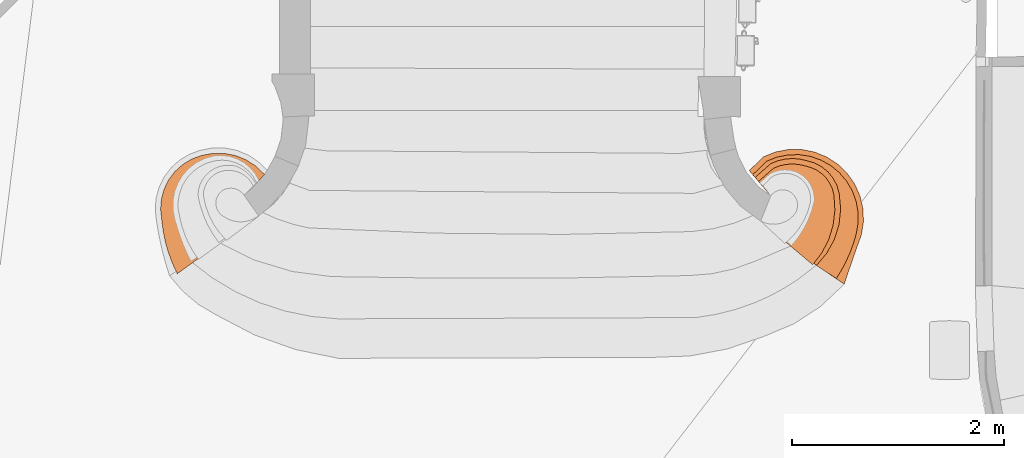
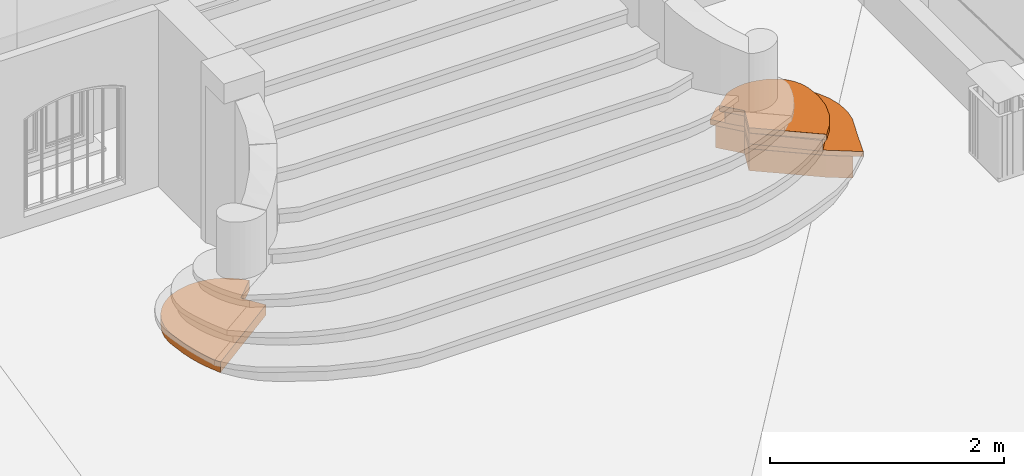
# One storey, part 125 of 133: 5 proxies.
"""IFC2X3 building model written with IfcOpenShell, lengths in centimetres."""

from ifc_helpers import new_model, entity, si_unit, converted_unit, direction, frame, origin, origin_with_axes, place, context, subcontext, project, spatial, faceted_brep, material, element, save


model = new_model("IFC2X3")

# Units and contexts
model_context = context("Model", 3, precision=0.0001, world=origin(), true_north=direction((0.225632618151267, 0.974212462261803, 0.0)))
body_context = subcontext(model_context, "Body", "Model", "MODEL_VIEW")
ifc_project = project(units=[si_unit("LENGTHUNIT", "METRE", prefix="CENTI"), si_unit("AREAUNIT", "SQUARE_METRE", prefix="CENTI"), si_unit("VOLUMEUNIT", "CUBIC_METRE", prefix="CENTI"), converted_unit("PLANEANGLEUNIT", "DEGREE", entity("IfcRatioMeasure", 0.0174532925), si_unit("PLANEANGLEUNIT", "RADIAN"), dimensions=[0, 0, 0, 0, 0, 0, 0])], contexts=[model_context])

# Site, building, storey
site_placement = place(None, origin_with_axes())
site = spatial("IfcSite", under=ifc_project, at=site_placement, Name="Default Site", CompositionType="ELEMENT")
building_placement = place(site_placement, origin_with_axes())
building = spatial("IfcBuilding", under=site, at=building_placement, Name="Default Building", CompositionType="ELEMENT")
storey_placement = place(building_placement, frame((0.0, 0.0, -291.400371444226), z_axis=(0.0, 0.0, 1.0), x_axis=(1.0, 0.0, 0.0)))
storey = spatial("IfcBuildingStorey", under=building, at=storey_placement, Name="Rez-de-Jardin", CompositionType="ELEMENT", Elevation=-291.400371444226)

# Proxies
ifc_material = material(Name="Béton (01)")
proxy_1_placement = place(storey_placement, frame((27.3559945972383, -1202.28852461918, 128.0), z_axis=(0.0, 0.0, 1.0), x_axis=(1.0, 0.0, 0.0)))
element("IfcBuildingElementProxy", 1, at=proxy_1_placement, inside=storey, material=ifc_material, Name="Encombrement 348051", context=body_context, shape_type="Brep", body=[
    faceted_brep([(1.17703078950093e-06, -7.63789582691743e-06, 11.227674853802), (49.1338115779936, -41.2495689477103, 11.227674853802), (57.7709299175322, -29.9996452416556, 11.227674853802), (64.2625909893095, -17.389400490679, 11.227674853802), (68.400530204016, -3.82338333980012, 11.227674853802), (70.0519960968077, 10.263244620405, 11.227674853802), (69.1640060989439, 24.4185371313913, 11.227674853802), (67.7305024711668, 30.0906104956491, 11.227674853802), (65.3294783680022, 35.4256553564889, 11.227674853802), (62.0345574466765, 40.2601165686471, 11.227674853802), (57.9467993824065, 44.4455070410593, 11.227674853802), (53.1915646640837, 47.8536529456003, 11.227674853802), (47.9146939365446, 50.3800315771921, 11.227674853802), (42.2780138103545, 51.9470138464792, 11.227674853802), (36.2530690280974, 53.3565444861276, 11.227674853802), (30.0848287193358, 53.8460655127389, 11.227674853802), (23.9129763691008, 53.4044189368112, 11.227674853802), (17.8772789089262, 52.0417137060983, 11.227674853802), (12.1144038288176, 49.7886581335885, 11.227674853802), (-2.08130957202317, 37.2734947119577, 11.227674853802), (9.55675064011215, 23.7449569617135, 11.227674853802), (1.17703078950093e-06, -7.63789582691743e-06, -4.39882250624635e-06), (49.1338134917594, -41.249566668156, -4.39882250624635e-06), (49.1338134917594, -41.249566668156, 11.227674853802), (49.1338115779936, -41.2495689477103, -4.39882250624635e-06), (57.7709401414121, -29.9996530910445, -4.39882250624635e-06), (57.7709401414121, -29.9996530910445, 11.227674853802), (57.7709299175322, -29.9996452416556, -4.39882250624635e-06), (64.262587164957, -17.389398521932, -4.39882250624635e-06), (64.262587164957, -17.389398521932, 11.227674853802), (64.2625909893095, -17.389400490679, -4.39882250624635e-06), (68.400521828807, -3.82338078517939, -4.39882250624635e-06), (68.400521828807, -3.82338078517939, 11.227674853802), (68.400530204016, -3.82338333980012, -4.39882250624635e-06), (70.0519966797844, 10.2632445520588, -4.39882250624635e-06), (70.0519966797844, 10.2632445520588, 11.227674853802), (70.0519960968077, 10.263244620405, -4.39882250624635e-06), (69.1640048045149, 24.418537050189, -4.39882250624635e-06), (69.1640048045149, 24.418537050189, 11.227674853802), (69.1640060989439, 24.4185371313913, -4.39882250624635e-06), (67.7305125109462, 30.0906130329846, -4.39882250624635e-06), (67.7305125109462, 30.0906130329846, 11.227674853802), (67.7305024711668, 30.0906104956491, -4.39882250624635e-06), (65.3294788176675, 35.4256555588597, -4.39882250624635e-06), (65.3294788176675, 35.4256555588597, 11.227674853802), (65.3294783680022, 35.4256553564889, -4.39882250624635e-06), (62.0345229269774, 40.260093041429, -4.39882250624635e-06), (62.0345229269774, 40.260093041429, 11.227674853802), (62.0345574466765, 40.2601165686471, -4.39882250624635e-06), (57.9468280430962, 44.4455350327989, -4.39882250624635e-06), (57.9468280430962, 44.4455350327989, 11.227674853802), (57.9467993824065, 44.4455070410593, -4.39882250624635e-06), (53.1915680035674, 47.8536576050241, -4.39882250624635e-06), (53.1915680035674, 47.8536576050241, 11.227674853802), (53.1915646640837, 47.8536529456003, -4.39882250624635e-06), (47.9146758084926, 50.3799937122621, -4.39882250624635e-06), (47.9146758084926, 50.3799937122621, 11.227674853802), (47.9146939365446, 50.3800315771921, -4.39882250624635e-06), (42.2780276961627, 51.9470637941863, -4.39882250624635e-06), (42.2780276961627, 51.9470637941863, 11.227674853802), (42.2780138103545, 51.9470138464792, -4.39882250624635e-06), (36.2530695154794, 53.3565465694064, -4.39882250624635e-06), (36.2530695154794, 53.3565465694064, 11.227674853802), (36.2530690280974, 53.3565444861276, -4.39882250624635e-06), (30.0848267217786, 53.8460403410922, -4.39882250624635e-06), (30.0848267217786, 53.8460403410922, 11.227674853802), (30.0848287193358, 53.8460655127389, -4.39882250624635e-06), (23.9129749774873, 53.4044383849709, -4.39882250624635e-06), (23.9129749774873, 53.4044383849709, 11.227674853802), (23.9129763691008, 53.4044189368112, -4.39882250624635e-06), (17.8772880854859, 52.0416730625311, -4.39882250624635e-06), (17.8772880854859, 52.0416730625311, 11.227674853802), (17.8772789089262, 52.0417137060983, -4.39882250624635e-06), (12.1143889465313, 49.788696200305, -4.39882250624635e-06), (12.1143889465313, 49.788696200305, 11.227674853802), (12.1144038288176, 49.7886581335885, -4.39882250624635e-06), (-2.08128087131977, 37.2734621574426, -4.39882250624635e-06), (-2.08128087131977, 37.2734621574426, 11.227674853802), (-2.08130957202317, 37.2734947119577, -4.39882250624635e-06), (9.55678500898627, 23.744986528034, -4.39882250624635e-06), (9.55678500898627, 23.744986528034, 11.227674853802), (9.55675064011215, 23.7449569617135, -4.39882250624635e-06), (1.41314684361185e-05, -1.28517220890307e-05, -4.39882250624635e-06), (1.41314684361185e-05, -1.28517220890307e-05, 11.227674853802)], [[[0, 1, 2, 3, 4, 5, 6, 7, 8, 9, 10, 11, 12, 13, 14, 15, 16, 17, 18, 19, 20]], [[21, 22, 23, 0]], [[24, 25, 26, 1]], [[27, 28, 29, 2]], [[30, 31, 32, 3]], [[33, 34, 35, 4]], [[36, 37, 38, 5]], [[39, 40, 41, 6]], [[42, 43, 44, 7]], [[45, 46, 47, 8]], [[48, 49, 50, 9]], [[51, 52, 53, 10]], [[54, 55, 56, 11]], [[57, 58, 59, 12]], [[60, 61, 62, 13]], [[63, 64, 65, 14]], [[66, 67, 68, 15]], [[69, 70, 71, 16]], [[72, 73, 74, 17]], [[75, 76, 77, 18]], [[78, 79, 80, 19]], [[81, 82, 83, 20]], [[81, 78, 75, 72, 69, 66, 63, 60, 57, 54, 51, 48, 45, 42, 39, 36, 33, 30, 27, 24, 21]]]),
])
proxy_2_placement = place(storey_placement, frame((27.35599459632, -1202.28852462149, 123.0), z_axis=(0.0, 0.0, 1.0), x_axis=(1.0, 0.0, 0.0)))
element("IfcBuildingElementProxy", 2, at=proxy_2_placement, inside=storey, material=ifc_material, Name="Encombrement 348050", context=body_context, shape_type="Brep", body=[
    faceted_brep([(1.17794908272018e-06, -7.63559455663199e-06, 5.29999769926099), (52.4183553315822, -41.7912559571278, 5.29999769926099), (78.872500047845, -59.4954567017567, 5.29999769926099), (81.9988709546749, -50.1147346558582, 5.29999769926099), (85.1847749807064, -40.7539444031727, 5.29999769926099), (88.430080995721, -31.4136581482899, 5.29999769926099), (91.7346459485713, -22.0942573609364, 5.29999769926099), (95.0983625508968, -12.7959327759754, 5.29999769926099), (96.9736319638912, -0.587566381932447, 5.29999769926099), (96.4947324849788, 11.754695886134, 5.29999769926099), (93.6791521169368, 23.781005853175, 5.29999769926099), (88.6294704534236, 35.0531501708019, 5.29999769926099), (81.5297347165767, 45.160285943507, 5.29999769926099), (72.6386827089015, 53.7341041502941, 5.29999769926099), (62.2803550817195, 60.4620857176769, 5.29999769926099), (50.8322459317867, 65.0990409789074, 5.29999769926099), (38.7115698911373, 67.4759788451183, 5.29999769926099), (26.3600689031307, 67.5063056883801, 5.29999769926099), (14.2278712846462, 65.1888770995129, 5.29999769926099), (2.75713323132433, 60.6081886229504, 5.29999769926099), (-10.7204544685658, 47.6282997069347, 5.29999769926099), (9.48454557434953, 23.7668914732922, 5.29999769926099), (1.17794908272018e-06, -7.63559455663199e-06, 3.69549080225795e-07), (52.4183649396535, -41.7912439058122, 3.69549080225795e-07), (52.4183649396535, -41.7912439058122, 5.29999769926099), (52.4183553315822, -41.7912559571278, 3.69549080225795e-07), (78.8724865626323, -59.4954768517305, 3.69549080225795e-07), (78.8724865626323, -59.4954768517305, 5.29999769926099), (78.872500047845, -59.4954567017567, 3.69549080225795e-07), (81.9988580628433, -50.114730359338, 3.69549080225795e-07), (81.9988580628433, -50.114730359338, 5.29999769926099), (81.9988709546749, -50.1147346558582, 3.69549080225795e-07), (85.1847964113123, -40.7539516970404, 3.69549080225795e-07), (85.1847964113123, -40.7539516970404, 5.29999769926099), (85.1847749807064, -40.7539444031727, 3.69549080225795e-07), (88.430080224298, -31.4136578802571, 3.69549080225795e-07), (88.430080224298, -31.4136578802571, 5.29999769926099), (88.430080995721, -31.4136581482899, 3.69549080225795e-07), (91.7346315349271, -22.0942522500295, 3.69549080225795e-07), (91.7346315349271, -22.0942522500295, 5.29999769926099), (91.7346459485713, -22.0942573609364, 3.69549080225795e-07), (95.0983694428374, -12.795935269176, 3.69549080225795e-07), (95.0983694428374, -12.795935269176, 5.29999769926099), (95.0983625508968, -12.7959327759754, 3.69549080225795e-07), (96.9736268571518, -0.587565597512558, 3.69549080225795e-07), (96.9736268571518, -0.587565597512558, 5.29999769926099), (96.9736319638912, -0.587566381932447, 3.69549080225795e-07), (96.4947410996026, 11.7546962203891, 3.69549080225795e-07), (96.4947410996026, 11.7546962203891, 5.29999769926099), (96.4947324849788, 11.754695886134, 3.69549080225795e-07), (93.6791503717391, 23.7810054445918, 3.69549080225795e-07), (93.6791503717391, 23.7810054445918, 5.29999769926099), (93.6791521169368, 23.781005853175, 3.69549080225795e-07), (88.6294744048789, 35.0531519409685, 3.69549080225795e-07), (88.6294744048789, 35.0531519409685, 5.29999769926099), (88.6294704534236, 35.0531501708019, 3.69549080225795e-07), (81.5297390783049, 45.1602890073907, 3.69549080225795e-07), (81.5297390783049, 45.1602890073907, 5.29999769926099), (81.5297347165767, 45.160285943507, 3.69549080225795e-07), (72.6386718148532, 53.7340928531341, 3.69549080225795e-07), (72.6386718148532, 53.7340928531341, 5.29999769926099), (72.6386827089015, 53.7341041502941, 3.69549080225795e-07), (62.2803503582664, 60.4620784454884, 3.69549080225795e-07), (62.2803503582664, 60.4620784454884, 5.29999769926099), (62.2803550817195, 60.4620857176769, 3.69549080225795e-07), (50.8322466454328, 65.0990427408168, 3.69549080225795e-07), (50.8322466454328, 65.0990427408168, 5.29999769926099), (50.8322459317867, 65.0990409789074, 3.69549080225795e-07), (38.711572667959, 67.4759930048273, 3.69549080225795e-07), (38.711572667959, 67.4759930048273, 5.29999769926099), (38.7115698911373, 67.4759788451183, 3.69549080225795e-07), (26.3600688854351, 67.5062984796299, 3.69549080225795e-07), (26.3600688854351, 67.5062984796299, 5.29999769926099), (26.3600689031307, 67.5063056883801, 3.69549080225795e-07), (14.2278692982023, 65.1888874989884, 3.69549080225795e-07), (14.2278692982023, 65.1888874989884, 5.29999769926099), (14.2278712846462, 65.1888770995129, 3.69549080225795e-07), (2.75713660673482, 60.6081801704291, 3.69549080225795e-07), (2.75713660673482, 60.6081801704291, 5.29999769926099), (2.75713323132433, 60.6081886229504, 3.69549080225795e-07), (-10.7204577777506, 47.6283031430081, 3.69549080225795e-07), (-10.7204577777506, 47.6283031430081, 5.29999769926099), (-10.7204544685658, 47.6282997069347, 3.69549080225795e-07), (9.48455409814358, 23.766898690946, 3.69549080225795e-07), (9.48455409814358, 23.766898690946, 5.29999769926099), (9.48454557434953, 23.7668914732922, 3.69549080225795e-07), (1.18805334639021e-05, -1.19066188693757e-05, 3.69549080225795e-07), (1.18805334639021e-05, -1.19066188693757e-05, 5.29999769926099)], [[[0, 1, 2, 3, 4, 5, 6, 7, 8, 9, 10, 11, 12, 13, 14, 15, 16, 17, 18, 19, 20, 21]], [[22, 23, 24, 0]], [[25, 26, 27, 1]], [[28, 29, 30, 2]], [[31, 32, 33, 3]], [[34, 35, 36, 4]], [[37, 38, 39, 5]], [[40, 41, 42, 6]], [[43, 44, 45, 7]], [[46, 47, 48, 8]], [[49, 50, 51, 9]], [[52, 53, 54, 10]], [[55, 56, 57, 11]], [[58, 59, 60, 12]], [[61, 62, 63, 13]], [[64, 65, 66, 14]], [[67, 68, 69, 15]], [[70, 71, 72, 16]], [[73, 74, 75, 17]], [[76, 77, 78, 18]], [[79, 80, 81, 19]], [[82, 83, 84, 20]], [[85, 86, 87, 21]], [[85, 82, 79, 76, 73, 70, 67, 64, 61, 58, 55, 52, 49, 46, 43, 40, 37, 34, 31, 28, 25, 22]]]),
])
proxy_3_placement = place(storey_placement, frame((27.355994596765, -1202.28852462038, 100.0), z_axis=(0.0, 0.0, 1.0), x_axis=(1.0, 0.0, 0.0)))
element("IfcBuildingElementProxy", 3, at=proxy_3_placement, inside=storey, material=ifc_material, Name="Encombrement 345566", context=body_context, shape_type="Brep", body=[
    faceted_brep([(1.17750407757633e-06, -7.63669874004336e-06, 22.8638395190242), (52.4183553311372, -41.7912559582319, 22.8638395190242), (71.3794571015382, -54.2307930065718, 22.8638395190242), (76.2051564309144, -46.4475708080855, 22.8638395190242), (80.5030923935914, -38.3608894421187, 22.8638395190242), (84.2542749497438, -30.0065116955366, 22.8638395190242), (87.4421340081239, -21.4214401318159, 22.8638395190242), (90.0525671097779, -12.6435356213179, 22.8638395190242), (91.9171792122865, -2.25840378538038, 22.8638395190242), (91.9245940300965, 8.29276274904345, 22.8638395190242), (90.0745612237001, 18.6804695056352, 22.8638395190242), (86.4248734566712, 28.5802764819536, 22.8638395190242), (81.0895067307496, 37.6830978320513, 22.8638395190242), (74.2350917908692, 45.7045478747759, 22.8638395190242), (66.075686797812, 52.3941917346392, 22.8638395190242), (56.8661194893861, 57.5430793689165, 22.8638395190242), (46.8940061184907, 60.9903259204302, 22.8638395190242), (36.4707809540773, 62.6284522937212, 22.8638395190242), (25.9219628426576, 62.4061508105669, 22.8638395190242), (15.5770015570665, 60.330383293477, 22.8638395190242), (5.75897215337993, 56.4659995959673, 22.8638395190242), (-7.41057129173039, 43.7827987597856, 22.8638395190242), (9.55675064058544, 23.7449569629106, 22.8638395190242), (1.17750407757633e-06, -7.63669874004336e-06, -1.53779955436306e-06), (52.4183649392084, -41.7912439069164, -1.53779955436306e-06), (52.4183649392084, -41.7912439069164, 22.8638395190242), (52.4183553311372, -41.7912559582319, -1.53779955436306e-06), (71.3794423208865, -54.230815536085, -1.53779955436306e-06), (71.3794423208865, -54.230815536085, 22.8638395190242), (71.3794571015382, -54.2307930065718, -1.53779955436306e-06), (76.2051401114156, -46.4475606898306, -1.53779955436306e-06), (76.2051401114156, -46.4475606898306, 22.8638395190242), (76.2051564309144, -46.4475708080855, -1.53779955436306e-06), (80.5030985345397, -38.360892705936, -1.53779955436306e-06), (80.5030985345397, -38.360892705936, 22.8638395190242), (80.5030923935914, -38.3608894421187, -1.53779955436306e-06), (84.2542876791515, -30.006517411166, -1.53779955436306e-06), (84.2542876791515, -30.006517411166, 22.8638395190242), (84.2542749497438, -30.0065116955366, -1.53779955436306e-06), (87.442118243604, -21.421434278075, -1.53779955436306e-06), (87.442118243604, -21.421434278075, 22.8638395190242), (87.4421340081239, -21.4214401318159, -1.53779955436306e-06), (90.0525643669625, -12.6435348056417, -1.53779955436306e-06), (90.0525643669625, -12.6435348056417, 22.8638395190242), (90.0525671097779, -12.6435356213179, -1.53779955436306e-06), (91.9171863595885, -2.25840506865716, -1.53779955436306e-06), (91.9171863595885, -2.25840506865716, 22.8638395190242), (91.9171792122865, -2.25840378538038, -1.53779955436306e-06), (91.9245867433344, 8.29276275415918, -1.53779955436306e-06), (91.9245867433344, 8.29276275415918, 22.8638395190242), (91.9245940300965, 8.29276274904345, -1.53779955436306e-06), (90.0745640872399, 18.680470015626, -1.53779955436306e-06), (90.0745640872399, 18.680470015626, 22.8638395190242), (90.0745612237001, 18.6804695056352, -1.53779955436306e-06), (86.424882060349, 28.5802796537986, -1.53779955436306e-06), (86.424882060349, 28.5802796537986, 22.8638395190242), (86.4248734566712, 28.5802764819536, -1.53779955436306e-06), (81.089494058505, 37.6830904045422, -1.53779955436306e-06), (81.089494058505, 37.6830904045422, 22.8638395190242), (81.0895067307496, 37.6830978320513, -1.53779955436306e-06), (74.2350969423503, 45.7045522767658, -1.53779955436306e-06), (74.2350969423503, 45.7045522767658, 22.8638395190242), (74.2350917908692, 45.7045478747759, -1.53779955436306e-06), (66.0756771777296, 52.3941800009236, -1.53779955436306e-06), (66.0756771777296, 52.3941800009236, 22.8638395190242), (66.075686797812, 52.3941917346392, -1.53779955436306e-06), (56.8661087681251, 57.5430601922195, -1.53779955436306e-06), (56.8661087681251, 57.5430601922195, 22.8638395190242), (56.8661194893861, 57.5430793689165, -1.53779955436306e-06), (46.8940230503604, 60.9903748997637, -1.53779955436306e-06), (46.8940230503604, 60.9903748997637, 22.8638395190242), (46.8940061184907, 60.9903259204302, -1.53779955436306e-06), (36.470773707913, 62.628406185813, -1.53779955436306e-06), (36.470773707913, 62.628406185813, 22.8638395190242), (36.4707809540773, 62.6284522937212, -1.53779955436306e-06), (25.9219628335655, 62.4061512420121, -1.53779955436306e-06), (25.9219628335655, 62.4061512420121, 22.8638395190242), (25.9219628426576, 62.4061508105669, -1.53779955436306e-06), (15.5769959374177, 60.3304113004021, -1.53779955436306e-06), (15.5769959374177, 60.3304113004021, 22.8638395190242), (15.5770015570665, 60.330383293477, -1.53779955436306e-06), (5.75896050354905, 56.4660291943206, -1.53779955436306e-06), (5.75896050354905, 56.4660291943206, 22.8638395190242), (5.75897215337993, 56.4659995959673, -1.53779955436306e-06), (-7.41056490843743, 43.7827921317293, -1.53779955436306e-06), (-7.41056490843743, 43.7827921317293, 22.8638395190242), (-7.41057129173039, 43.7827987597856, -1.53779955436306e-06), (9.55676753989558, 23.7449712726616, -1.53779955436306e-06), (9.55676753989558, 23.7449712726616, 22.8638395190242), (9.55675064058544, 23.7449569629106, -1.53779955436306e-06), (1.41319417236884e-05, -1.28505250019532e-05, -1.53779955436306e-06), (1.41319417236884e-05, -1.28505250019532e-05, 22.8638395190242)], [[[0, 1, 2, 3, 4, 5, 6, 7, 8, 9, 10, 11, 12, 13, 14, 15, 16, 17, 18, 19, 20, 21, 22]], [[23, 24, 25, 0]], [[26, 27, 28, 1]], [[29, 30, 31, 2]], [[32, 33, 34, 3]], [[35, 36, 37, 4]], [[38, 39, 40, 5]], [[41, 42, 43, 6]], [[44, 45, 46, 7]], [[47, 48, 49, 8]], [[50, 51, 52, 9]], [[53, 54, 55, 10]], [[56, 57, 58, 11]], [[59, 60, 61, 12]], [[62, 63, 64, 13]], [[65, 66, 67, 14]], [[68, 69, 70, 15]], [[71, 72, 73, 16]], [[74, 75, 76, 17]], [[77, 78, 79, 18]], [[80, 81, 82, 19]], [[83, 84, 85, 20]], [[86, 87, 88, 21]], [[89, 90, 91, 22]], [[89, 86, 83, 80, 77, 74, 71, 68, 65, 62, 59, 56, 53, 50, 47, 44, 41, 38, 35, 32, 29, 26, 23]]]),
])
proxy_4_placement = place(storey_placement, frame((27.503640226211, -1202.16115975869, 139.0), z_axis=(0.0, 0.0, 1.0), x_axis=(1.0, 0.0, 0.0)))
element("IfcBuildingElementProxy", 4, at=proxy_4_placement, inside=storey, material=ifc_material, Name="Encombrement 348052", context=body_context, shape_type="Brep", body=[
    faceted_brep([(-7.66601060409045e-07, 3.83902834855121e-05, 5.72766960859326), (52.5550417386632, -41.900214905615, 5.72766960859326), (62.1734849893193, -30.5799100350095, 5.72766960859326), (69.3512968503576, -17.5743672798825, 5.72766960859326), (73.8023333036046, -3.40209936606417, 5.72766960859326), (75.3491692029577, 11.3718416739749, 5.72766960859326), (73.930137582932, 26.1587526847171, 5.72766960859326), (71.7906467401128, 33.4861185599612, 5.72766960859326), (68.2437531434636, 40.2453806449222, 5.72766960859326), (63.4296826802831, 46.1693193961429, 5.72766960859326), (57.5387470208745, 51.0236170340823, 5.72766960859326), (50.8038393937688, 54.6165850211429, 5.72766960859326), (43.4912137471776, 56.8060305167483, 5.72766960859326), (36.6427533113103, 58.3545115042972, 5.72766960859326), (29.6385936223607, 58.8454630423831, 5.72766960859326), (22.6410798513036, 58.2674410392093, 5.72766960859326), (15.8124081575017, 56.633892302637, 5.72766960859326), (9.31084973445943, 53.9826777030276, 5.72766960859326), (-5.34232782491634, 41.0642054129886, 5.72766960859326), (9.55674571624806, 23.7450029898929, 5.72766960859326), (-7.66601060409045e-07, 3.83902834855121e-05, -2.96831104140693e-06), (52.5550651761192, -41.9001855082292, -2.96831104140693e-06), (52.5550651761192, -41.9001855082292, 5.72766960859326), (52.5550417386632, -41.900214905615, -2.96831104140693e-06), (62.1734758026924, -30.5799022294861, -2.96831104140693e-06), (62.1734758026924, -30.5799022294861, 5.72766960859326), (62.1734849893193, -30.5799100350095, -2.96831104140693e-06), (69.3513100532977, -17.5743745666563, -2.96831104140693e-06), (69.3513100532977, -17.5743745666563, 5.72766960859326), (69.3512968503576, -17.5743672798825, -2.96831104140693e-06), (73.8023448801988, -3.4021030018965, -2.96831104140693e-06), (73.8023448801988, -3.4021030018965, 5.72766960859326), (73.8023333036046, -3.40209936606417, -2.96831104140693e-06), (75.349161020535, 11.3718425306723, -2.96831104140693e-06), (75.349161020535, 11.3718425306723, 5.72766960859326), (75.3491692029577, 11.3718416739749, -2.96831104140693e-06), (73.9301293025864, 26.1587518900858, -2.96831104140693e-06), (73.9301293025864, 26.1587518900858, 5.72766960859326), (73.930137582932, 26.1587526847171, -2.96831104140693e-06), (71.7906541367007, 33.4861207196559, -2.96831104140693e-06), (71.7906541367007, 33.4861207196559, 5.72766960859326), (71.7906467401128, 33.4861185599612, -2.96831104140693e-06), (68.2437544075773, 40.24538130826, -2.96831104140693e-06), (68.2437544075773, 40.24538130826, 5.72766960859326), (68.2437531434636, 40.2453806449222, -2.96831104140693e-06), (63.4296702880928, 46.1693093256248, -2.96831104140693e-06), (63.4296702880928, 46.1693093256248, 5.72766960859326), (63.4296826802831, 46.1693193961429, -2.96831104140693e-06), (57.5387853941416, 51.0236636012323, -2.96831104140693e-06), (57.5387853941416, 51.0236636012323, 5.72766960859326), (57.5387470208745, 51.0236170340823, -2.96831104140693e-06), (50.8038209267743, 54.6165504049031, -2.96831104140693e-06), (50.8038209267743, 54.6165504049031, 5.72766960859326), (50.8038393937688, 54.6165850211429, -2.96831104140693e-06), (43.4912095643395, 56.8060165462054, -2.96831104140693e-06), (43.4912095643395, 56.8060165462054, 5.72766960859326), (43.4912137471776, 56.8060305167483, -2.96831104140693e-06), (36.6427609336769, 58.3545452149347, -2.96831104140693e-06), (36.6427609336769, 58.3545452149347, 5.72766960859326), (36.6427533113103, 58.3545115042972, -2.96831104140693e-06), (29.6385934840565, 58.8454610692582, -2.96831104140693e-06), (29.6385934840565, 58.8454610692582, 5.72766960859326), (29.6385936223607, 58.8454630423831, -2.96831104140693e-06), (22.6410777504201, 58.2674664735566, -2.96831104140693e-06), (22.6410777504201, 58.2674664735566, 5.72766960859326), (22.6410798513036, 58.2674410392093, -2.96831104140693e-06), (15.8124071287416, 56.633896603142, -2.96831104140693e-06), (15.8124071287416, 56.633896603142, 5.72766960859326), (15.8124081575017, 56.633892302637, -2.96831104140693e-06), (9.31085537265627, 53.9826638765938, -2.96831104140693e-06), (9.31085537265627, 53.9826638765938, 5.72766960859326), (9.31084973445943, 53.9826777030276, -2.96831104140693e-06), (-5.34229884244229, 41.0641725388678, -2.96831104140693e-06), (-5.34229884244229, 41.0641725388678, 5.72766960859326), (-5.34232782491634, 41.0642054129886, -2.96831104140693e-06), (9.556757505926, 23.7450131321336, -2.96831104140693e-06), (9.556757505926, 23.7450131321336, 5.72766960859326), (9.55674571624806, 23.7450029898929, -2.96831104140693e-06), (9.62306069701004e-06, 3.42087132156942e-05, -2.96831104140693e-06), (9.62306069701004e-06, 3.42087132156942e-05, 5.72766960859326)], [[[0, 1, 2, 3, 4, 5, 6, 7, 8, 9, 10, 11, 12, 13, 14, 15, 16, 17, 18, 19]], [[20, 21, 22, 0]], [[23, 24, 25, 1]], [[26, 27, 28, 2]], [[29, 30, 31, 3]], [[32, 33, 34, 4]], [[35, 36, 37, 5]], [[38, 39, 40, 6]], [[41, 42, 43, 7]], [[44, 45, 46, 8]], [[47, 48, 49, 9]], [[50, 51, 52, 10]], [[53, 54, 55, 11]], [[56, 57, 58, 12]], [[59, 60, 61, 13]], [[62, 63, 64, 14]], [[65, 66, 67, 15]], [[68, 69, 70, 16]], [[71, 72, 73, 17]], [[74, 75, 76, 18]], [[77, 78, 79, 19]], [[77, 74, 71, 68, 65, 62, 59, 56, 53, 50, 47, 44, 41, 38, 35, 32, 29, 26, 23, 20]]]),
])
proxy_5_placement = place(storey_placement, frame((-500.217356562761, -1140.43037463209, 112.0), z_axis=(0.0, 0.0, 1.0), x_axis=(1.0, 0.0, 0.0)))
element("IfcBuildingElementProxy", 5, at=proxy_5_placement, inside=storey, material=ifc_material, Name="Encombrement 348055", context=body_context, shape_type="Brep", body=[
    faceted_brep([(1.41860519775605e-05, 1.95600710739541e-05, 10.8638395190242), (-9.20389664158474, -3.39115094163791, 10.8638395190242), (-17.6014758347, -8.45992993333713, 10.8638395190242), (-24.8903132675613, -15.0238795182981, 10.8638395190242), (-30.8079100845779, -22.8465838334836, 10.8638395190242), (-35.1411677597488, -31.6462321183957, 10.8638395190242), (-37.7341128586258, -41.1061091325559, 10.8638395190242), (-38.4932376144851, -50.8854670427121, 10.8638395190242), (-37.3913146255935, -60.6322092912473, 10.8638395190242), (-36.0770560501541, -71.2194247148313, 10.8638395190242), (-33.9436389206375, -81.6723627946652, 10.8638395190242), (-31.003985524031, -91.9277949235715, 10.8638395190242), (-27.2759295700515, -101.923732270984, 10.8638395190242), (-22.782025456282, -111.599521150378, 10.8638395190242), (53.7886284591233, -56.757621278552, 10.8638395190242), (40.0693558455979, -37.3366160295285, 10.8638395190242), (59.6447132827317, -18.018607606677, 10.8638395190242), (51.8155716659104, -10.3315157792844, 10.8638395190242), (42.6564835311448, -4.29017971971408, 10.8638395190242), (32.5081013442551, -0.119189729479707, 10.8638395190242), (21.7477940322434, 2.02638674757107, 10.8638395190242), (10.7757233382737, 2.06653643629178, 10.8638395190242), (1.41860519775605e-05, 1.95600710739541e-05, -1.06096240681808e-06), (-9.20390082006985, -3.39113960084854, -1.06096240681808e-06), (-9.20390082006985, -3.39113960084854, 10.8638395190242), (-9.20389664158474, -3.39115094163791, -1.06096240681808e-06), (-17.6014611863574, -8.45995420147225, -1.06096240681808e-06), (-17.6014611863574, -8.45995420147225, 10.8638395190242), (-17.6014758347, -8.45992993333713, -1.06096240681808e-06), (-24.890319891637, -15.0238721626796, -1.06096240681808e-06), (-24.890319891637, -15.0238721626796, 10.8638395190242), (-24.8903132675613, -15.0238795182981, -1.06096240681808e-06), (-30.8079282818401, -22.8465700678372, -1.06096240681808e-06), (-30.8079282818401, -22.8465700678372, 10.8638395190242), (-30.8079100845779, -22.8465838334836, -1.06096240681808e-06), (-35.1411550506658, -31.6462383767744, -1.06096240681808e-06), (-35.1411550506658, -31.6462383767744, 10.8638395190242), (-35.1411677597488, -31.6462321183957, -1.06096240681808e-06), (-37.7340741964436, -41.1061197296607, -1.06096240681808e-06), (-37.7340741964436, -41.1061197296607, 10.8638395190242), (-37.7341128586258, -41.1061091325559, -1.06096240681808e-06), (-38.4932669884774, -50.8854647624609, -1.06096240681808e-06), (-38.4932669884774, -50.8854647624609, 10.8638395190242), (-38.4932376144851, -50.8854670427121, -1.06096240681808e-06), (-37.3913021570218, -60.6322078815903, -1.06096240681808e-06), (-37.3913021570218, -60.6322078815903, 10.8638395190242), (-37.3913146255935, -60.6322092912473, -1.06096240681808e-06), (-36.077045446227, -71.2194233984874, -1.06096240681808e-06), (-36.077045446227, -71.2194233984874, 10.8638395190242), (-36.0770560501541, -71.2194247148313, -1.06096240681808e-06), (-33.9436565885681, -81.6723664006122, -1.06096240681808e-06), (-33.9436565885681, -81.6723664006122, 10.8638395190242), (-33.9436389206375, -81.6723627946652, -1.06096240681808e-06), (-31.0040175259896, -91.9278040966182, -1.06096240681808e-06), (-31.0040175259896, -91.9278040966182, 10.8638395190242), (-31.003985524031, -91.9277949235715, -1.06096240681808e-06), (-27.2759100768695, -101.923725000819, -1.06096240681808e-06), (-27.2759100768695, -101.923725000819, 10.8638395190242), (-27.2759295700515, -101.923732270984, -1.06096240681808e-06), (-22.7820125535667, -111.599515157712, -1.06096240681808e-06), (-22.7820125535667, -111.599515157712, 10.8638395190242), (-22.782025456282, -111.599521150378, -1.06096240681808e-06), (53.7886220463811, -56.7576123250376, -1.06096240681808e-06), (53.7886220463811, -56.7576123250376, 10.8638395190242), (53.7886284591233, -56.757621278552, -1.06096240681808e-06), (40.0693610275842, -37.3366123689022, -1.06096240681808e-06), (40.0693610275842, -37.3366123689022, 10.8638395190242), (40.0693558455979, -37.3366160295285, -1.06096240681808e-06), (59.6447636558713, -18.0186586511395, -1.06096240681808e-06), (59.6447636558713, -18.0186586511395, 10.8638395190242), (59.6447132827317, -18.018607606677, -1.06096240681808e-06), (51.8155673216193, -10.3315202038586, -1.06096240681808e-06), (51.8155673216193, -10.3315202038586, 10.8638395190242), (51.8155716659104, -10.3315157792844, -1.06096240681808e-06), (42.6565082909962, -4.29014218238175, -1.06096240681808e-06), (42.6565082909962, -4.29014218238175, 10.8638395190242), (42.6564835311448, -4.29017971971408, -1.06096240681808e-06), (32.5081044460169, -0.119182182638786, -1.06096240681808e-06), (32.5081044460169, -0.119182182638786, 10.8638395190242), (32.5081013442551, -0.119189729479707, -1.06096240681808e-06), (21.7477807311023, 2.02632003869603, -1.06096240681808e-06), (21.7477807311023, 2.02632003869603, 10.8638395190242), (21.7477940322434, 2.02638674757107, -1.06096240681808e-06), (10.7757235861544, 2.06660406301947, -1.06096240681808e-06), (10.7757235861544, 2.06660406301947, 10.8638395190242), (10.7757233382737, 2.06653643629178, -1.06096240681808e-06), (2.236953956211e-05, -2.31112447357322e-05, -1.06096240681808e-06), (2.236953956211e-05, -2.31112447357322e-05, 10.8638395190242)], [[[0, 1, 2, 3, 4, 5, 6, 7, 8, 9, 10, 11, 12, 13, 14, 15, 16, 17, 18, 19, 20, 21]], [[22, 23, 24, 0]], [[25, 26, 27, 1]], [[28, 29, 30, 2]], [[31, 32, 33, 3]], [[34, 35, 36, 4]], [[37, 38, 39, 5]], [[40, 41, 42, 6]], [[43, 44, 45, 7]], [[46, 47, 48, 8]], [[49, 50, 51, 9]], [[52, 53, 54, 10]], [[55, 56, 57, 11]], [[58, 59, 60, 12]], [[61, 62, 63, 13]], [[64, 65, 66, 14]], [[67, 68, 69, 15]], [[70, 71, 72, 16]], [[73, 74, 75, 17]], [[76, 77, 78, 18]], [[79, 80, 81, 19]], [[82, 83, 84, 20]], [[85, 86, 87, 21]], [[85, 82, 79, 76, 73, 70, 67, 64, 61, 58, 55, 52, 49, 46, 43, 40, 37, 34, 31, 28, 25, 22]]]),
])

save(model, "model.ifc")
